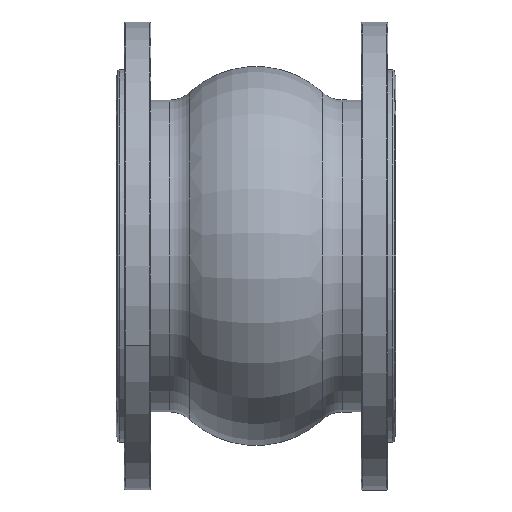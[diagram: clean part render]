
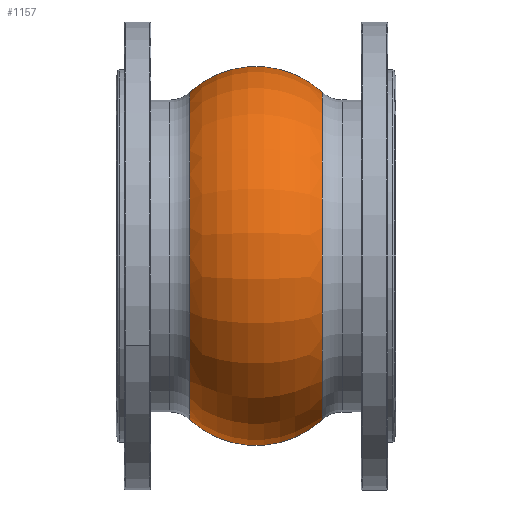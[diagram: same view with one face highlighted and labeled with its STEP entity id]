
A CAD part, front view. The second image highlights one B-rep face of the part: STEP entity #1157.
In plain terms, the highlighted toroidal (fillet/blend) face has major radius 79 mm and minor radius 85 mm.
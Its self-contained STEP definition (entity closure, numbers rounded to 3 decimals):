
#2 = CARTESIAN_POINT ( 'NONE',  ( -57.51, 0., -141.591 ) ) ;
#368 = DIRECTION ( 'NONE',  ( 0., 0., 1. ) ) ;
#399 = DIRECTION ( 'NONE',  ( -1., 0., 0. ) ) ;
#450 = EDGE_CURVE ( 'NONE', #2754, #1262, #4835, .T. ) ;
#482 = CARTESIAN_POINT ( 'NONE',  ( 57.51, 0., -141.591 ) ) ;
#486 = CARTESIAN_POINT ( 'NONE',  ( 0., 0., 79. ) ) ;
#532 = AXIS2_PLACEMENT_3D ( 'NONE', #1531, #3750, #1900 ) ;
#537 = DIRECTION ( 'NONE',  ( 0., 0., -1. ) ) ;
#661 = DIRECTION ( 'NONE',  ( 0., 1., 0. ) ) ;
#742 = EDGE_CURVE ( 'NONE', #1262, #3248, #1738, .T. ) ;
#1078 = TOROIDAL_SURFACE ( 'NONE', #532, 79., 85. ) ;
#1132 = DIRECTION ( 'NONE',  ( -1., 0., 0. ) ) ;
#1157 = ADVANCED_FACE ( 'NONE', ( #2978 ), #1078, .T. ) ;
#1184 = AXIS2_PLACEMENT_3D ( 'NONE', #4803, #661, #3685 ) ;
#1262 = VERTEX_POINT ( 'NONE', #2 ) ;
#1531 = CARTESIAN_POINT ( 'NONE',  ( 0., 0., 0. ) ) ;
#1738 = CIRCLE ( 'NONE', #3506, 141.591 ) ;
#1900 = DIRECTION ( 'NONE',  ( 0., 0., 1. ) ) ;
#1980 = AXIS2_PLACEMENT_3D ( 'NONE', #486, #2401, #537 ) ;
#2180 = ORIENTED_EDGE ( 'NONE', *, *, #450, .F. ) ;
#2276 = EDGE_CURVE ( 'NONE', #2361, #3248, #2787, .T. ) ;
#2314 = CARTESIAN_POINT ( 'NONE',  ( -57.51, 0., 141.591 ) ) ;
#2361 = VERTEX_POINT ( 'NONE', #4816 ) ;
#2401 = DIRECTION ( 'NONE',  ( 0., -1., 0. ) ) ;
#2588 = EDGE_CURVE ( 'NONE', #2754, #2361, #3391, .T. ) ;
#2687 = CARTESIAN_POINT ( 'NONE',  ( 57.51, 0., 0. ) ) ;
#2754 = VERTEX_POINT ( 'NONE', #482 ) ;
#2787 = CIRCLE ( 'NONE', #1980, 85. ) ;
#2978 = FACE_OUTER_BOUND ( 'NONE', #4422, .T. ) ;
#3248 = VERTEX_POINT ( 'NONE', #2314 ) ;
#3391 = CIRCLE ( 'NONE', #3690, 141.591 ) ;
#3443 = ORIENTED_EDGE ( 'NONE', *, *, #2588, .T. ) ;
#3451 = DIRECTION ( 'NONE',  ( 0., 0., 1. ) ) ;
#3506 = AXIS2_PLACEMENT_3D ( 'NONE', #4966, #399, #3451 ) ;
#3615 = ORIENTED_EDGE ( 'NONE', *, *, #742, .F. ) ;
#3685 = DIRECTION ( 'NONE',  ( 0., 0., 1. ) ) ;
#3690 = AXIS2_PLACEMENT_3D ( 'NONE', #2687, #1132, #368 ) ;
#3750 = DIRECTION ( 'NONE',  ( -1., 0., 0. ) ) ;
#4419 = ORIENTED_EDGE ( 'NONE', *, *, #2276, .T. ) ;
#4422 = EDGE_LOOP ( 'NONE', ( #2180, #3443, #4419, #3615 ) ) ;
#4803 = CARTESIAN_POINT ( 'NONE',  ( 0., 0., -79. ) ) ;
#4816 = CARTESIAN_POINT ( 'NONE',  ( 57.51, 0., 141.591 ) ) ;
#4835 = CIRCLE ( 'NONE', #1184, 85. ) ;
#4966 = CARTESIAN_POINT ( 'NONE',  ( -57.51, 0., 0. ) ) ;
